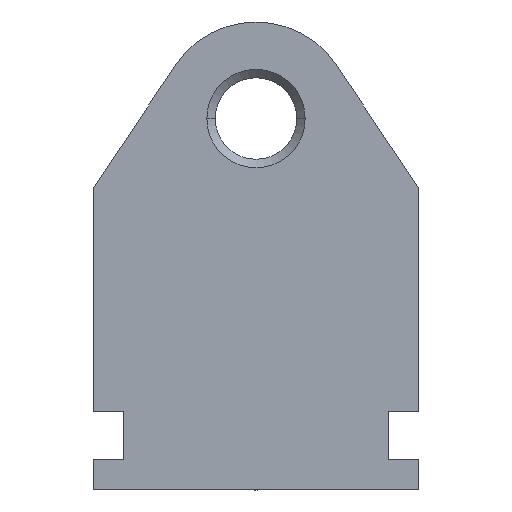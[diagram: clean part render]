
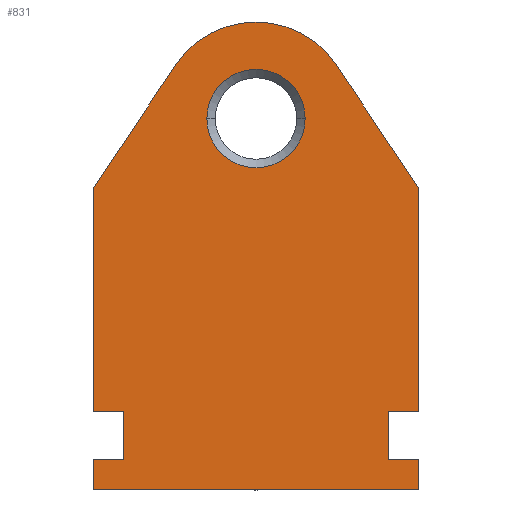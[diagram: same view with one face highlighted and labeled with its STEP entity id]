
A CAD part, left-side view. The second image highlights one B-rep face of the part: STEP entity #831.
In plain terms, the highlighted planar face has unit normal (-1, 0, 0).
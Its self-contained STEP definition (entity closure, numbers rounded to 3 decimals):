
#37=CARTESIAN_POINT('',(-51.585,6.648,59.736));
#38=VERTEX_POINT('',#37);
#45=CARTESIAN_POINT('',(-51.585,-6.648,59.736));
#46=VERTEX_POINT('',#45);
#47=CARTESIAN_POINT('',(-51.585,0.,55.286));
#48=DIRECTION('',(0.,0.831,0.556));
#49=DIRECTION('',(1.,0.,0.));
#50=AXIS2_PLACEMENT_3D('',#47,#49,#48);
#51=CIRCLE('',#50,8.);
#52=EDGE_CURVE('',#38,#46,#51,.T.);
#78=CARTESIAN_POINT('',(-51.585,-13.5,49.5));
#79=VERTEX_POINT('',#78);
#80=CARTESIAN_POINT('',(-51.585,-6.648,59.736));
#81=DIRECTION('',(0.,-0.556,-0.831));
#82=VECTOR('',#81,12.318);
#83=LINE('',#80,#82);
#84=EDGE_CURVE('',#46,#79,#83,.T.);
#110=CARTESIAN_POINT('',(-51.585,13.5,49.5));
#111=VERTEX_POINT('',#110);
#118=CARTESIAN_POINT('',(-51.585,13.5,49.5));
#119=DIRECTION('',(0.,-0.556,0.831));
#120=VECTOR('',#119,12.318);
#121=LINE('',#118,#120);
#122=EDGE_CURVE('',#111,#38,#121,.T.);
#292=CARTESIAN_POINT('',(-51.585,4.075,55.286));
#293=VERTEX_POINT('',#292);
#301=CARTESIAN_POINT('',(-51.585,-4.075,55.286));
#302=VERTEX_POINT('',#301);
#309=CARTESIAN_POINT('',(-51.585,0.,55.286));
#310=DIRECTION('',(0.,-1.,0.));
#311=DIRECTION('',(-1.,0.,0.));
#312=AXIS2_PLACEMENT_3D('',#309,#311,#310);
#313=CIRCLE('',#312,4.075);
#314=EDGE_CURVE('',#302,#293,#313,.T.);
#324=CARTESIAN_POINT('',(-51.585,0.,55.286));
#325=DIRECTION('',(0.,1.,0.));
#326=DIRECTION('',(-1.,0.,0.));
#327=AXIS2_PLACEMENT_3D('',#324,#326,#325);
#328=CIRCLE('',#327,4.075);
#329=EDGE_CURVE('',#293,#302,#328,.T.);
#445=CARTESIAN_POINT('',(-51.585,-13.5,24.5));
#446=VERTEX_POINT('',#445);
#453=CARTESIAN_POINT('',(-51.585,13.5,24.5));
#454=VERTEX_POINT('',#453);
#455=CARTESIAN_POINT('',(-51.585,-13.5,24.5));
#456=DIRECTION('',(0.,1.,0.));
#457=VECTOR('',#456,27.);
#458=LINE('',#455,#457);
#459=EDGE_CURVE('',#446,#454,#458,.T.);
#596=CARTESIAN_POINT('',(-51.585,-13.5,27.));
#597=VERTEX_POINT('',#596);
#604=CARTESIAN_POINT('',(-51.585,-13.5,27.));
#605=DIRECTION('',(0.,0.,-1.));
#606=VECTOR('',#605,2.5);
#607=LINE('',#604,#606);
#608=EDGE_CURVE('',#597,#446,#607,.T.);
#621=CARTESIAN_POINT('',(-51.585,-13.5,31.));
#622=VERTEX_POINT('',#621);
#623=CARTESIAN_POINT('',(-51.585,-13.5,49.5));
#624=DIRECTION('',(0.,0.,-1.));
#625=VECTOR('',#624,18.5);
#626=LINE('',#623,#625);
#627=EDGE_CURVE('',#79,#622,#626,.T.);
#725=CARTESIAN_POINT('',(-51.585,13.5,27.));
#726=VERTEX_POINT('',#725);
#727=CARTESIAN_POINT('',(-51.585,13.5,24.5));
#728=DIRECTION('',(0.,0.,1.));
#729=VECTOR('',#728,2.5);
#730=LINE('',#727,#729);
#731=EDGE_CURVE('',#454,#726,#730,.T.);
#749=CARTESIAN_POINT('',(-51.585,13.5,31.));
#750=VERTEX_POINT('',#749);
#757=CARTESIAN_POINT('',(-51.585,13.5,31.));
#758=DIRECTION('',(0.,0.,1.));
#759=VECTOR('',#758,18.5);
#760=LINE('',#757,#759);
#761=EDGE_CURVE('',#750,#111,#760,.T.);
#768=CARTESIAN_POINT('',(-51.585,3.334,47.925));
#769=DIRECTION('',(0.,1.,0.));
#770=DIRECTION('',(-1.,0.,0.));
#771=AXIS2_PLACEMENT_3D('',#768,#770,#769);
#772=PLANE('',#771);
#773=ORIENTED_EDGE('',*,*,#84,.F.);
#774=ORIENTED_EDGE('',*,*,#52,.F.);
#775=ORIENTED_EDGE('',*,*,#122,.F.);
#776=ORIENTED_EDGE('',*,*,#761,.F.);
#777=CARTESIAN_POINT('',(-51.585,11.,31.));
#778=VERTEX_POINT('',#777);
#779=CARTESIAN_POINT('',(-51.585,13.5,31.));
#780=DIRECTION('',(0.,-1.,0.));
#781=VECTOR('',#780,2.5);
#782=LINE('',#779,#781);
#783=EDGE_CURVE('',#750,#778,#782,.T.);
#784=ORIENTED_EDGE('E62',*,*,#783,.T.);
#785=CARTESIAN_POINT('',(-51.585,11.,27.));
#786=VERTEX_POINT('',#785);
#787=CARTESIAN_POINT('',(-51.585,11.,31.));
#788=DIRECTION('',(0.,0.,-1.));
#789=VECTOR('',#788,4.);
#790=LINE('',#787,#789);
#791=EDGE_CURVE('',#778,#786,#790,.T.);
#792=ORIENTED_EDGE('E63',*,*,#791,.T.);
#793=CARTESIAN_POINT('',(-51.585,11.,27.));
#794=DIRECTION('',(0.,1.,0.));
#795=VECTOR('',#794,2.5);
#796=LINE('',#793,#795);
#797=EDGE_CURVE('',#786,#726,#796,.T.);
#798=ORIENTED_EDGE('E64',*,*,#797,.T.);
#799=ORIENTED_EDGE('E64',*,*,#731,.F.);
#800=ORIENTED_EDGE('E64',*,*,#459,.F.);
#801=ORIENTED_EDGE('E64',*,*,#608,.F.);
#802=CARTESIAN_POINT('',(-51.585,-11.,27.));
#803=VERTEX_POINT('',#802);
#804=CARTESIAN_POINT('',(-51.585,-13.5,27.));
#805=DIRECTION('',(0.,1.,0.));
#806=VECTOR('',#805,2.5);
#807=LINE('',#804,#806);
#808=EDGE_CURVE('',#597,#803,#807,.T.);
#809=ORIENTED_EDGE('E65',*,*,#808,.T.);
#810=CARTESIAN_POINT('',(-51.585,-11.,31.));
#811=VERTEX_POINT('',#810);
#812=CARTESIAN_POINT('',(-51.585,-11.,27.));
#813=DIRECTION('',(0.,0.,1.));
#814=VECTOR('',#813,4.);
#815=LINE('',#812,#814);
#816=EDGE_CURVE('',#803,#811,#815,.T.);
#817=ORIENTED_EDGE('E66',*,*,#816,.T.);
#818=CARTESIAN_POINT('',(-51.585,-11.,31.));
#819=DIRECTION('',(0.,-1.,0.));
#820=VECTOR('',#819,2.5);
#821=LINE('',#818,#820);
#822=EDGE_CURVE('',#811,#622,#821,.T.);
#823=ORIENTED_EDGE('E67',*,*,#822,.T.);
#824=ORIENTED_EDGE('E67',*,*,#627,.F.);
#825=EDGE_LOOP('',(#773,#774,#775,#776,#784,#792,#798,#799,#800,#801,#809,#817,#823,#824));
#826=FACE_OUTER_BOUND('',#825,.T.);
#827=ORIENTED_EDGE('',*,*,#314,.F.);
#828=ORIENTED_EDGE('',*,*,#329,.F.);
#829=EDGE_LOOP('',(#827,#828));
#830=FACE_BOUND('',#829,.T.);
#831=ADVANCED_FACE('F24',(#826,#830),#772,.T.);
